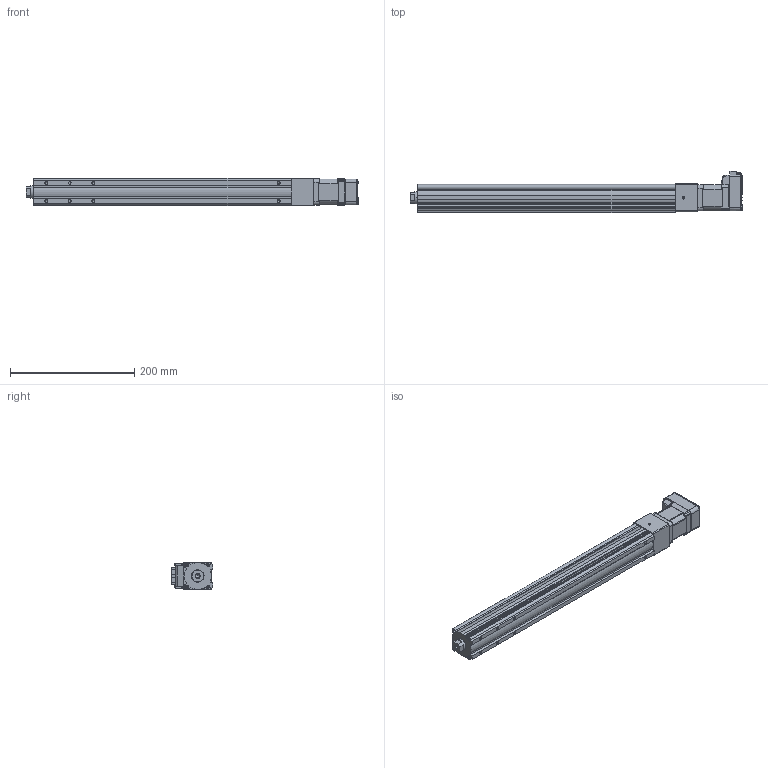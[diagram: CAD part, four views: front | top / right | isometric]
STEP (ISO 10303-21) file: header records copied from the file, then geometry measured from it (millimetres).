
FILE_DESCRIPTION (( 'STEP AP214' ), '1' );
FILE_NAME ('LEY3(+)-25DNM1□-300-17L.STEP', '2023-04-06T06:37:34', ( '' ), ( '' ), 'SwSTEP 2.0', 'SolidWorks 2019', '' );
FILE_SCHEMA (( 'AUTOMOTIVE_DESIGN' ));
Length unit declared in the file: millimetre
Products named in the file (5): LEY3(+)-25DNM1□-300-17L; LEY3(+)-25NM1?_BODY_300; LEY3(+)-25NM1?_ROD_300; CM3(+)-17L50A; LEY3(+)-25DNM1_MOTOR Flange
Assembly tree (4 placements, depth 2):
  LEY3(+)-25DNM1□-300-17L
    LEY3(+)-25NM1?_BODY_300
    LEY3(+)-25NM1?_ROD_300
    LEY3(+)-25DNM1_MOTOR Flange
    CM3(+)-17L50A
Bounding box: 534.8 x 66.75 x 45 mm (x, y, z)
Volume: 878798.6 mm3; surface area: 173272.2 mm2
Topology: 4 solids, 4 shells, 878 faces, 2218 edges, 1385 vertices
Faces by surface type: plane 460, cylinder 245, cone 94, bspline 29, torus 29, sphere 21
Full cylindrical faces by diameter (mm): 2.5 x4, 3.5 x4, 4 x1, 4.2 x6, 5 x1, 8 x1, 11 x1, 22 x1, 33 x1
Entity records: 36750 total; most frequent: CARTESIAN_POINT 6496, ORIENTED_EDGE 4284, DIRECTION 4139, EDGE_CURVE 2142, AXIS2_PLACEMENT_3D 1383, VERTEX_POINT 1375, VECTOR 1373, LINE 1373
